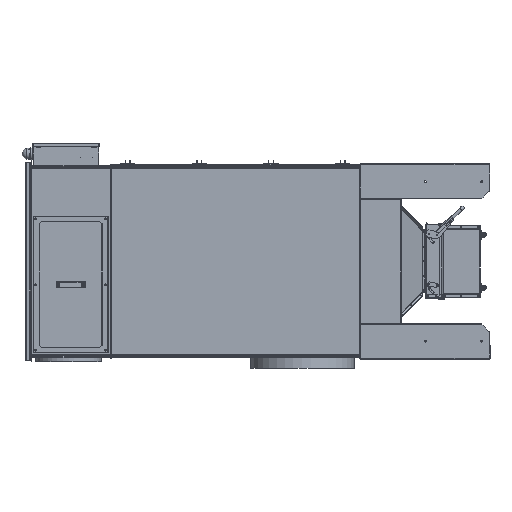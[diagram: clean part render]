
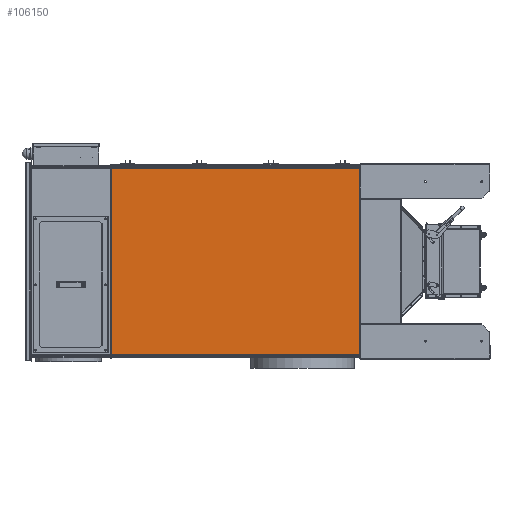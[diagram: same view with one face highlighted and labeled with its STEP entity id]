
A CAD part, left-side view. The second image highlights one B-rep face of the part: STEP entity #106150.
In plain terms, the highlighted planar face has unit normal (-1, 0, 0).
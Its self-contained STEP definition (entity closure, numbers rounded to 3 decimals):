
#5025=PLANE('',#114440);
#11216=FACE_OUTER_BOUND('',#17546,.T.);
#17546=EDGE_LOOP('',(#90460,#90461,#90462,#90463,#90464,#90465,#90466,#90467,
#90468,#90469,#90470,#90471));
#27885=LINE('',#167923,#37678);
#31471=LINE('',#178100,#41264);
#31481=LINE('',#178125,#41274);
#31489=LINE('',#178145,#41282);
#31496=LINE('',#178162,#41289);
#31507=LINE('',#178185,#41300);
#31516=LINE('',#178215,#41309);
#31517=LINE('',#178217,#41310);
#31518=LINE('',#178219,#41311);
#31519=LINE('',#178221,#41312);
#31520=LINE('',#178223,#41313);
#31521=LINE('',#178224,#41314);
#37678=VECTOR('',#127169,1000.);
#41264=VECTOR('',#136903,1000.);
#41274=VECTOR('',#136925,1000.);
#41282=VECTOR('',#136941,1000.);
#41289=VECTOR('',#136954,1000.);
#41300=VECTOR('',#136979,1000.);
#41309=VECTOR('',#137008,1000.);
#41310=VECTOR('',#137009,1000.);
#41311=VECTOR('',#137010,1000.);
#41312=VECTOR('',#137011,1000.);
#41313=VECTOR('',#137012,1000.);
#41314=VECTOR('',#137013,1000.);
#48201=VERTEX_POINT('',#167920);
#48202=VERTEX_POINT('',#167922);
#51507=VERTEX_POINT('',#178096);
#51509=VERTEX_POINT('',#178099);
#51518=VERTEX_POINT('',#178123);
#51522=VERTEX_POINT('',#178134);
#51526=VERTEX_POINT('',#178143);
#51533=VERTEX_POINT('',#178160);
#51550=VERTEX_POINT('',#178216);
#51551=VERTEX_POINT('',#178218);
#51552=VERTEX_POINT('',#178220);
#51553=VERTEX_POINT('',#178222);
#60120=EDGE_CURVE('',#48202,#48201,#27885,.T.);
#65131=EDGE_CURVE('',#51509,#51507,#31471,.T.);
#65145=EDGE_CURVE('',#51507,#51518,#31481,.T.);
#65155=EDGE_CURVE('',#51522,#51526,#31489,.T.);
#65163=EDGE_CURVE('',#51526,#51533,#31496,.T.);
#65175=EDGE_CURVE('',#51522,#51518,#31507,.F.);
#65190=EDGE_CURVE('',#48202,#51533,#31516,.T.);
#65191=EDGE_CURVE('',#48201,#51550,#31517,.T.);
#65192=EDGE_CURVE('',#51551,#51550,#31518,.F.);
#65193=EDGE_CURVE('',#51551,#51552,#31519,.T.);
#65194=EDGE_CURVE('',#51552,#51553,#31520,.T.);
#65195=EDGE_CURVE('',#51509,#51553,#31521,.T.);
#90460=ORIENTED_EDGE('',*,*,#65190,.F.);
#90461=ORIENTED_EDGE('',*,*,#60120,.T.);
#90462=ORIENTED_EDGE('',*,*,#65191,.T.);
#90463=ORIENTED_EDGE('',*,*,#65192,.F.);
#90464=ORIENTED_EDGE('',*,*,#65193,.T.);
#90465=ORIENTED_EDGE('',*,*,#65194,.T.);
#90466=ORIENTED_EDGE('',*,*,#65195,.F.);
#90467=ORIENTED_EDGE('',*,*,#65131,.T.);
#90468=ORIENTED_EDGE('',*,*,#65145,.T.);
#90469=ORIENTED_EDGE('',*,*,#65175,.F.);
#90470=ORIENTED_EDGE('',*,*,#65155,.T.);
#90471=ORIENTED_EDGE('',*,*,#65163,.T.);
#106150=ADVANCED_FACE('',(#11216),#5025,.T.);
#114440=AXIS2_PLACEMENT_3D('',#178214,#137006,#137007);
#127169=DIRECTION('',(0.,-1.,0.));
#136903=DIRECTION('',(0.,1.,0.));
#136925=DIRECTION('',(0.,0.,1.));
#136941=DIRECTION('',(0.,0.,-1.));
#136954=DIRECTION('',(0.,1.,0.));
#136979=DIRECTION('',(0.,1.,0.));
#137006=DIRECTION('center_axis',(-1.,0.,0.));
#137007=DIRECTION('ref_axis',(0.,1.,0.));
#137008=DIRECTION('',(0.,0.,1.));
#137009=DIRECTION('',(0.,0.,-1.));
#137010=DIRECTION('',(0.,-1.,0.));
#137011=DIRECTION('',(0.,0.,1.));
#137012=DIRECTION('',(0.,-1.,0.));
#137013=DIRECTION('',(0.,0.,-1.));
#167920=CARTESIAN_POINT('',(-599.243,1817.438,-447.006));
#167922=CARTESIAN_POINT('',(-599.243,1817.75,-447.006));
#167923=CARTESIAN_POINT('',(-599.243,1318.938,-447.006));
#178096=CARTESIAN_POINT('',(-599.243,629.063,447.156));
#178099=CARTESIAN_POINT('',(-599.243,628.75,447.156));
#178100=CARTESIAN_POINT('',(-599.243,625.938,447.156));
#178123=CARTESIAN_POINT('',(-599.243,629.063,447.469));
#178125=CARTESIAN_POINT('',(-599.243,629.063,-40.021));
#178134=CARTESIAN_POINT('',(-599.243,1817.438,447.469));
#178143=CARTESIAN_POINT('',(-599.243,1817.438,447.156));
#178145=CARTESIAN_POINT('',(-599.243,1817.438,-40.021));
#178160=CARTESIAN_POINT('',(-599.243,1817.75,447.156));
#178162=CARTESIAN_POINT('',(-599.243,1318.938,447.156));
#178185=CARTESIAN_POINT('',(-599.243,817.938,447.469));
#178214=CARTESIAN_POINT('Origin',(-599.243,817.625,-299.925));
#178215=CARTESIAN_POINT('',(-599.243,1817.75,0.075));
#178216=CARTESIAN_POINT('',(-599.243,1817.438,-447.319));
#178217=CARTESIAN_POINT('',(-599.243,1817.438,-40.021));
#178218=CARTESIAN_POINT('',(-599.243,629.063,-447.319));
#178219=CARTESIAN_POINT('',(-599.243,1316.23,-447.319));
#178220=CARTESIAN_POINT('',(-599.243,629.063,-447.006));
#178221=CARTESIAN_POINT('',(-599.243,629.063,-40.021));
#178222=CARTESIAN_POINT('',(-599.243,628.75,-447.006));
#178223=CARTESIAN_POINT('',(-599.243,625.938,-447.006));
#178224=CARTESIAN_POINT('',(-599.243,628.75,-299.925));
